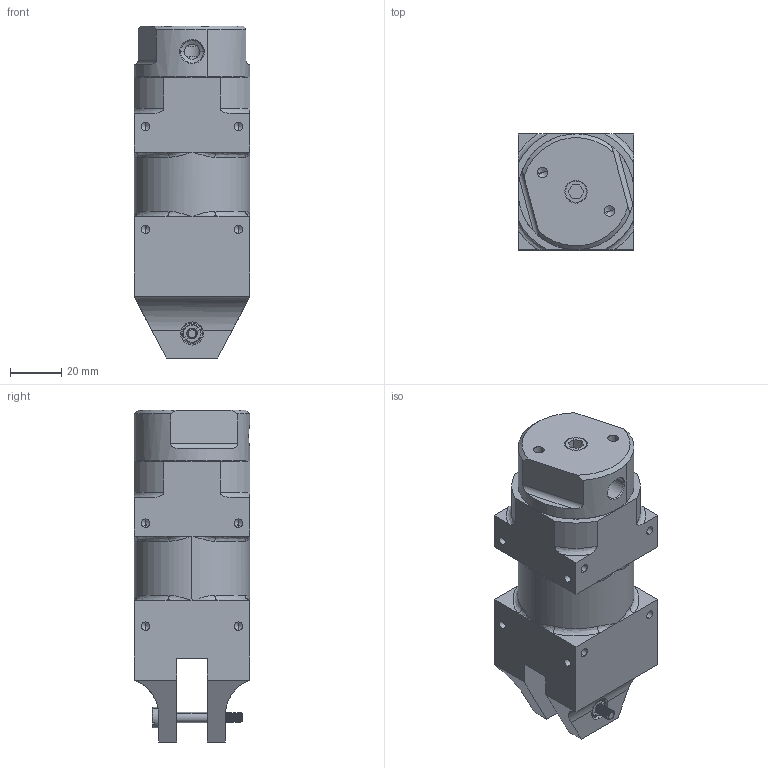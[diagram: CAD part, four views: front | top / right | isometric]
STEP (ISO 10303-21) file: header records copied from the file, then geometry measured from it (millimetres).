
FILE_DESCRIPTION (( 'STEP AP214' ), '1' );
FILE_NAME ('NGT-NS20P.STEP', '2019-11-13T07:09:40', ( '微软用户' ), ( '微软中国' ), 'SwSTEP 2.0', 'SolidWorks 2016', '' );
FILE_SCHEMA (( 'AUTOMOTIVE_DESIGN' ));
Length unit declared in the file: millimetre
Products named in the file (1): NGT-NS20P
Bounding box: 45 x 45 x 129 mm (x, y, z)
Volume: 109969.7 mm3; surface area: 45861.5 mm2
Topology: 6 solids, 6 shells, 414 faces, 1101 edges, 670 vertices
Faces by surface type: cylinder 198, plane 93, bspline 64, cone 59
Entity records: 27088 total; most frequent: CARTESIAN_POINT 13532, ORIENTED_EDGE 2098, DIRECTION 1597, EDGE_CURVE 1049, VERTEX_POINT 670, AXIS2_PLACEMENT_3D 581, EDGE_LOOP 451, LINE 435
